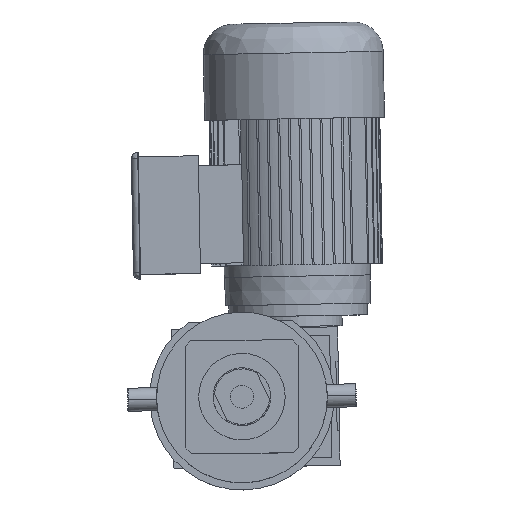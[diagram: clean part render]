
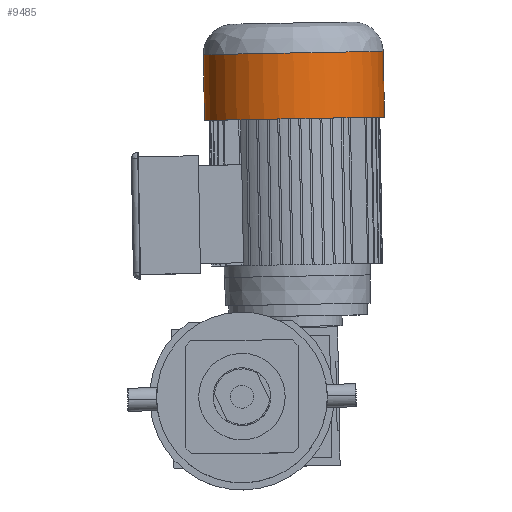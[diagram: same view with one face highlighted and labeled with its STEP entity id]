
A CAD part, top view. The second image highlights one B-rep face of the part: STEP entity #9485.
In plain terms, the highlighted cylindrical face has radius 78 mm (diameter 156 mm), a partial arc.
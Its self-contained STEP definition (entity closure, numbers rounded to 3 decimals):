
#1158 = DIRECTION ( 'NONE',  ( 0., 1., 0. ) ) ;
#1603 = DIRECTION ( 'NONE',  ( 0., 1., 0. ) ) ;
#2017 = EDGE_CURVE ( 'NONE', #11776, #37351, #14043, .T. ) ;
#2184 = ORIENTED_EDGE ( 'NONE', *, *, #30250, .T. ) ;
#2244 = CARTESIAN_POINT ( 'NONE',  ( 0., -78., -209.5 ) ) ;
#2514 = CIRCLE ( 'NONE', #7322, 78. ) ;
#2905 = AXIS2_PLACEMENT_3D ( 'NONE', #28741, #5630, #25955 ) ;
#4698 = CARTESIAN_POINT ( 'NONE',  ( 0., -78., -126.5 ) ) ;
#5630 = DIRECTION ( 'NONE',  ( 0., 0., -1. ) ) ;
#6120 = LINE ( 'NONE', #2244, #35877 ) ;
#6283 = CARTESIAN_POINT ( 'NONE',  ( 0., 78., -126.5 ) ) ;
#6416 = VECTOR ( 'NONE', #22019, 1000. ) ;
#7322 = AXIS2_PLACEMENT_3D ( 'NONE', #36158, #18868, #1603 ) ;
#9485 = ADVANCED_FACE ( 'NONE', ( #35393 ), #30880, .T. ) ;
#9855 = CARTESIAN_POINT ( 'NONE',  ( 0., 78., -183.5 ) ) ;
#11776 = VERTEX_POINT ( 'NONE', #6283 ) ;
#12870 = AXIS2_PLACEMENT_3D ( 'NONE', #35714, #18441, #1158 ) ;
#14043 = LINE ( 'NONE', #24814, #6416 ) ;
#18441 = DIRECTION ( 'NONE',  ( 0., 0., -1. ) ) ;
#18868 = DIRECTION ( 'NONE',  ( 0., 0., 1. ) ) ;
#19404 = EDGE_CURVE ( 'NONE', #11776, #23134, #24208, .T. ) ;
#22019 = DIRECTION ( 'NONE',  ( 0., 0., -1. ) ) ;
#22353 = ORIENTED_EDGE ( 'NONE', *, *, #22484, .T. ) ;
#22484 = EDGE_CURVE ( 'NONE', #37383, #37351, #2514, .T. ) ;
#23134 = VERTEX_POINT ( 'NONE', #4698 ) ;
#24208 = CIRCLE ( 'NONE', #12870, 78. ) ;
#24814 = CARTESIAN_POINT ( 'NONE',  ( 0., 78., -209.5 ) ) ;
#25333 = DIRECTION ( 'NONE',  ( 0., 0., -1. ) ) ;
#25955 = DIRECTION ( 'NONE',  ( 0., 1., 0. ) ) ;
#28741 = CARTESIAN_POINT ( 'NONE',  ( 0., 0., -209.5 ) ) ;
#29449 = ORIENTED_EDGE ( 'NONE', *, *, #2017, .F. ) ;
#30069 = EDGE_LOOP ( 'NONE', ( #33444, #2184, #22353, #29449 ) ) ;
#30250 = EDGE_CURVE ( 'NONE', #23134, #37383, #6120, .T. ) ;
#30880 = CYLINDRICAL_SURFACE ( 'NONE', #2905, 78. ) ;
#33444 = ORIENTED_EDGE ( 'NONE', *, *, #19404, .T. ) ;
#35393 = FACE_OUTER_BOUND ( 'NONE', #30069, .T. ) ;
#35714 = CARTESIAN_POINT ( 'NONE',  ( 0., 0., -126.5 ) ) ;
#35877 = VECTOR ( 'NONE', #25333, 1000. ) ;
#35984 = CARTESIAN_POINT ( 'NONE',  ( 0., -78., -183.5 ) ) ;
#36158 = CARTESIAN_POINT ( 'NONE',  ( 0., 0., -183.5 ) ) ;
#37351 = VERTEX_POINT ( 'NONE', #9855 ) ;
#37383 = VERTEX_POINT ( 'NONE', #35984 ) ;
